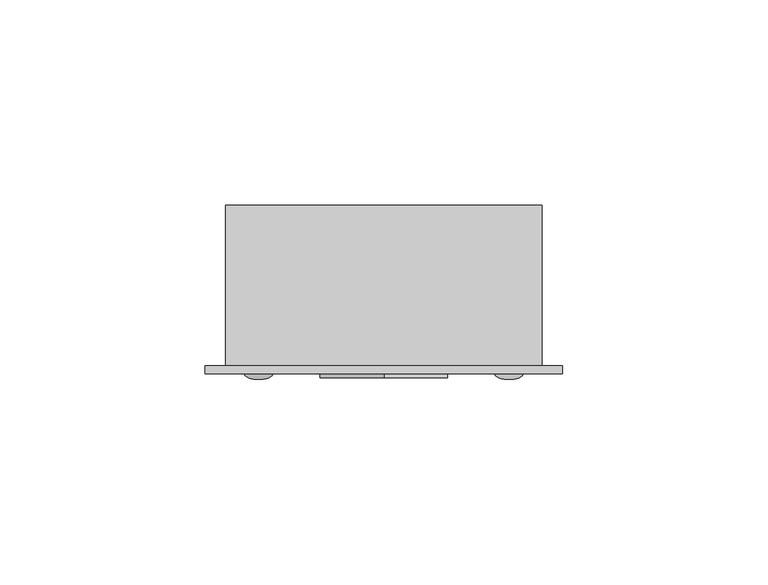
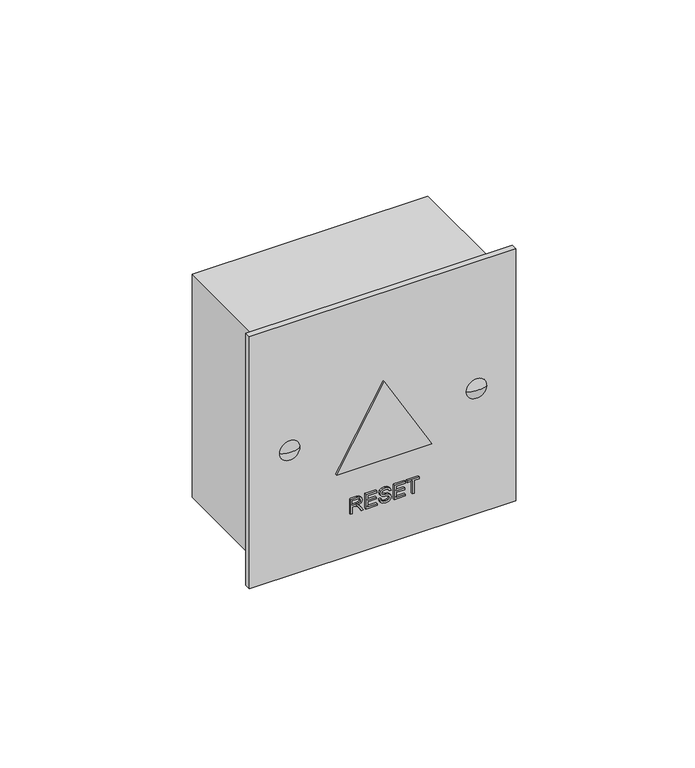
"""IFC4 building model written with IfcOpenShell, lengths in millimetres: proxy geometry, TSL_UK - TSLSZPC - Single Zone Assistance Alarm Kit : TSL.SZPC.CS - Satin - Reset Button."""

from ifc_helpers import new_model, si_unit, point, frame, origin, place, context, project, spatial, polyline, circle_curve, ellipse_curve, trimmed, outline, extrude, source, transform, mapped, element, save
from ifc_brep_helpers import plane_surface, revolved_surface, advanced_brep


def communication_devices_be0d23eb(model_context):
    return source(origin(), model_context, "Body", "SolidModel", [
        advanced_brep(
        [(43.5, -2.0, 43.5), (-43.5, -2.0, 43.5), (-43.5, -2.0, -43.5), (43.5, -2.0, -43.5), (4.0, -2.0, 0.0), (-4.0, -2.0, 0.0), (43.5, 0.0, 43.5), (43.5, 0.0, -43.5), (-43.5, 0.0, -43.5), (-43.5, 0.0, 43.5), (-1.5, 0.0, 0.0), (1.5, 0.0, 0.0), (-1.5, -1.139181, 0.0), (1.5, -1.139181, 0.0)],
        [
            (0, 1),
            (1, 2),
            (2, 3),
            (3, 0),
            (4, 5, circle_curve(frame((0.0, -2.0, 0.0), z_axis=(0.0, 1.0, 0.0), x_axis=(1.0, 0.0, 0.0)), 4.0)),
            (5, 4, circle_curve(frame((0.0, -2.0, 0.0), z_axis=(0.0, 1.0, 0.0), x_axis=(1.0, 0.0, 0.0)), 4.0)),
            (6, 7),
            (7, 8),
            (8, 9),
            (9, 6),
            (10, 11, circle_curve(frame((0.0, 0.0, 0.0), z_axis=(0.0, -1.0, 0.0), x_axis=(1.0, 0.0, 0.0)), 1.5)),
            (11, 10, circle_curve(frame((0.0, 0.0, 0.0), z_axis=(0.0, -1.0, 0.0), x_axis=(1.0, 0.0, 0.0)), 1.5)),
            (0, 6),
            (9, 1),
            (8, 2),
            (7, 3),
            (10, 12),
            (12, 13, circle_curve(frame((0.0, -1.139181, 0.0), z_axis=(0.0, -1.0, 0.0), x_axis=(1.0, 0.0, 0.0)), 1.5)),
            (13, 11),
            (13, 12, circle_curve(frame((0.0, -1.139181, 0.0), z_axis=(0.0, -1.0, 0.0), x_axis=(1.0, 0.0, 0.0)), 1.5)),
            (12, 5),
            (4, 13),
        ],
        [
            plane_surface(frame((-43.5, -2.0, 43.5), z_axis=(0.0, -1.0, 0.0), x_axis=(-1.0, 0.0, 0.0))),
            plane_surface(frame((-43.5, 0.0, 43.5), z_axis=(0.0, 1.0, 0.0), x_axis=(1.0, 0.0, 0.0))),
            plane_surface(frame((43.5, -2.0, 43.5), z_axis=(0.0, 0.0, 1.0), x_axis=(0.0, 1.0, 0.0))),
            plane_surface(frame((-43.5, -2.0, 43.5), z_axis=(-1.0, 0.0, 0.0), x_axis=(0.0, 1.0, 0.0))),
            plane_surface(frame((-43.5, -2.0, -43.5), z_axis=(0.0, 0.0, -1.0), x_axis=(0.0, 1.0, 0.0))),
            plane_surface(frame((43.5, -2.0, -43.5), z_axis=(1.0, 0.0, 0.0), x_axis=(0.0, 1.0, 0.0))),
            revolved_surface(polyline([(1.5, 0.0, 0.0), (1.5, -1.1391809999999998, 0.0)]), (0.0, 5.0, 0.0), (0.0, 1.0, 0.0)),
            revolved_surface(polyline([(1.5, -1.139181, 0.0), (4.0, -2.0, 0.0)]), (0.0, 5.0, 0.0), (0.0, 1.0, 0.0)),
        ],
        [
            (0, [[1, 2, 3, 4], [5, 6]]),
            (1, [[7, 8, 9, 10], [11, 12]]),
            (2, [[-1, 13, -10, 14]]),
            (3, [[-2, -14, -9, 15]]),
            (4, [[-3, -15, -8, 16]]),
            (5, [[-4, -16, -7, -13]]),
            (6, [[17, 18, 19, -11]]),
            (6, [[-17, -12, -19, 20]]),
            (7, [[-18, 21, -5, 22]]),
            (7, [[-20, -22, -6, -21]]),
        ],
    ),
        extrude(outline(polyline([(-28.4624998, 9.1430939), (-28.4624998, 9.7709458), (-24.0675362, 9.7709458), (-24.0675362, 11.4190571), (-23.4396842, 11.4190571), (-23.4396842, 7.4949825), (-24.0675362, 7.4949825), (-24.0675362, 9.1430939), (-28.4624998, 9.1430939)])), frame((0.0, -3.0, 0.0), z_axis=(0.0, 1.0, 0.0), x_axis=(0.0, 0.0, 1.0)), (0.0, 0.0, 1.0), 1.0),
        extrude(outline(polyline([(-28.4624998, 3.2569819), (-28.4624998, 6.9456121), (-27.8346478, 6.9456121), (-27.8346478, 3.8848339), (-26.1865365, 3.8848339), (-26.1865365, 6.7101676), (-25.5586845, 6.7101676), (-25.5586845, 3.8848339), (-24.0675362, 3.8848339), (-24.0675362, 6.8671306), (-23.4396842, 6.8671306), (-23.4396842, 3.2569819), (-28.4624998, 3.2569819)])), frame((0.0, -3.0, 0.0), z_axis=(0.0, 1.0, 0.0), x_axis=(0.0, 0.0, 1.0)), (0.0, 0.0, 1.0), 1.0),
        extrude(outline(polyline([(-26.7359069, -1.6088706), (-27.6948527, -1.3378642), (-28.3300622, -0.6284651), (-28.5409812, 0.4929619), (-28.3453906, 1.4427106), (-27.7972465, 2.0901829), (-27.0461541, 2.315204), (-26.3361418, 2.1196134), (-25.8272384, 1.511995), (-25.5120861, 0.4009914), (-25.161372, -0.6241731), (-24.726045, -0.8240557), (-24.2048788, -0.5420128), (-23.9890547, 0.3568455), (-24.2073313, 1.2532513), (-24.8523511, 1.6088706), (-24.8523511, 2.2367225), (-24.0663099, 1.987789), (-23.5402387, 1.3256015), (-23.3612028, 0.3323201), (-23.5322679, -0.5984214), (-24.0338137, -1.2342441), (-24.7444391, -1.4519076), (-25.3686122, -1.2759374), (-25.8358223, -0.7418954), (-26.1454563, 0.242189), (-26.3851928, 1.1563757), (-26.6703013, 1.5831189), (-27.0620956, 1.6873521), (-27.4833205, 1.5481701), (-27.7984727, 1.1244926), (-27.9131293, 0.4684364), (-27.7616845, -0.2844954), (-27.364372, -0.7786836), (-26.7359069, -0.9810187), (-26.7359069, -1.6088706)])), frame((0.0, -3.0, 0.0), z_axis=(0.0, 1.0, 0.0), x_axis=(0.0, 0.0, 1.0)), (0.0, 0.0, 1.0), 1.0),
        extrude(outline(polyline([(-28.4624998, -6.0038342), (-28.4624998, -2.315204), (-27.8346478, -2.315204), (-27.8346478, -5.3759822), (-26.1865365, -5.3759822), (-26.1865365, -2.5506485), (-25.5586845, -2.5506485), (-25.5586845, -5.3759822), (-24.0675362, -5.3759822), (-24.0675362, -2.3936855), (-23.4396842, -2.3936855), (-23.4396842, -6.0038342), (-28.4624998, -6.0038342)])), frame((0.0, -3.0, 0.0), z_axis=(0.0, 1.0, 0.0), x_axis=(0.0, 0.0, 1.0)), (0.0, 0.0, 1.0), 1.0),
        extrude(outline(polyline([(-28.4624998, -11.0266497), (-28.4624998, -10.3987977), (-26.265018, -10.3987977), (-26.265018, -9.6409608), (-26.2870909, -9.2767576), (-26.4066525, -8.9781601), (-26.7322281, -8.6464532), (-27.4213937, -8.1743379), (-28.4624998, -7.5207343), (-28.4624998, -6.7911016), (-27.1013364, -7.6286463), (-26.4550903, -8.1375497), (-26.1865365, -8.4943953), (-25.7193263, -7.4428659), (-24.8143366, -7.1025751), (-24.0546603, -7.3079758), (-23.5751874, -7.8573463), (-23.4396842, -8.8622773), (-23.4396842, -11.0266497), (-28.4624998, -11.0266497)]), holes=[polyline([(-25.637166, -10.3987977), (-24.0675362, -10.3987977), (-24.0675362, -8.8352993), (-24.2845866, -7.9959152), (-24.8376358, -7.730427), (-25.2637658, -7.869609), (-25.5482612, -8.2767318), (-25.637166, -8.9934885), (-25.637166, -10.3987977)])]), frame((0.0, -3.0, 0.0), z_axis=(0.0, 1.0, 0.0), x_axis=(0.0, 0.0, 1.0)), (0.0, 0.0, 1.0), 1.0),
        extrude(outline(polyline([(13.4249995, 0.0), (-13.4249995, -15.5), (-13.4249995, 15.5), (13.4249995, 0.0)])), frame((0.0, -3.0, 0.0), z_axis=(0.0, 1.0, 0.0), x_axis=(0.0, 0.0, 1.0)), (0.0, 0.0, 1.0), 1.0),
        advanced_brep(
        [(34.0, -2.0, 0.0), (27.0, -2.0, 0.0), (30.5, -2.0, 0.0), (30.5, -3.3586121, 0.0)],
        [
            (0, 1, circle_curve(frame((30.5, -2.0, 0.0), z_axis=(0.0, 1.0, 0.0), x_axis=(-1.0, 0.0, 0.0)), 3.5)),
            (1, 2),
            (2, 0),
            (1, 0, circle_curve(frame((30.5, -2.0, 0.0), z_axis=(0.0, 1.0, 0.0), x_axis=(-1.0, 0.0, 0.0)), 3.5)),
            (3, 1, ellipse_curve(frame((30.5, -2.0, 0.0), z_axis=(0.0, 0.0, -1.0), x_axis=(1.0, 0.0, 0.0)), 3.5, 1.3586121)),
            (0, 3, ellipse_curve(frame((30.5, -2.0, 0.0), z_axis=(0.0, 0.0, -1.0), x_axis=(-1.0, 0.0, 0.0)), 3.5, 1.3586121)),
        ],
        [
            plane_surface(frame((30.5, -2.0, 0.0), z_axis=(0.0, 1.0, 0.0), x_axis=(-1.0, 0.0, 0.0))),
            revolved_surface(trimmed(ellipse_curve(frame((30.5, -2.0, 0.0), z_axis=(0.0, 0.0, 1.0), x_axis=(1.0, 0.0, 0.0)), 3.5, 1.3586121), [point((27.0, -2.0, 0.0))], [point((30.5, -3.3586121, 0.0))], True, "CARTESIAN"), (30.5, 13.8518062, 0.0), (0.0, -1.0, 0.0)),
        ],
        [
            (0, [[1, 2, 3]]),
            (0, [[4, -3, -2]]),
            (1, [[5, -1, 6]]),
            (1, [[-6, -4, -5]]),
        ],
    ),
        advanced_brep(
        [(-30.5, -2.0, 0.0), (-27.0, -2.0, 0.0), (-34.0, -2.0, 0.0), (-30.5, -3.3586121, 0.0)],
        [
            (0, 1),
            (1, 2, circle_curve(frame((-30.5, -2.0, 0.0), z_axis=(0.0, 1.0, 0.0), x_axis=(1.0, 0.0, 0.0)), 3.5)),
            (2, 0),
            (2, 1, circle_curve(frame((-30.5, -2.0, 0.0), z_axis=(0.0, 1.0, 0.0), x_axis=(1.0, 0.0, 0.0)), 3.5)),
            (1, 3, ellipse_curve(frame((-30.5, -2.0, 0.0), z_axis=(0.0, 0.0, -1.0), x_axis=(-1.0, 0.0, 0.0)), 3.5, 1.3586121)),
            (3, 2, ellipse_curve(frame((-30.5, -2.0, 0.0), z_axis=(0.0, 0.0, -1.0), x_axis=(1.0, 0.0, 0.0)), 3.5, 1.3586121)),
        ],
        [
            plane_surface(frame((-30.5, -2.0, 0.0), z_axis=(0.0, 1.0, 0.0), x_axis=(1.0, 0.0, 0.0))),
            revolved_surface(trimmed(ellipse_curve(frame((-30.5, -2.0, 0.0), z_axis=(0.0, 0.0, 1.0), x_axis=(-1.0, 0.0, 0.0)), 3.5, 1.3586121), [point((-30.5, -3.3586121, 0.0))], [point((-27.0, -2.0, 0.0))], True, "CARTESIAN"), (-30.5, 13.8518062, 0.0), (0.0, 1.0, 0.0)),
        ],
        [
            (0, [[1, 2, 3]]),
            (0, [[-3, 4, -1]]),
            (1, [[-2, 5, 6]]),
            (1, [[-4, -6, -5]]),
        ],
    ),
        extrude(outline(polyline([(38.5, 0.0), (-38.5, 0.0), (-38.5, 39.0), (38.5, 39.0), (38.5, 0.0)])), frame((0.0, 0.0, -38.5), z_axis=(0.0, 0.0, 1.0), x_axis=(1.0, 0.0, 0.0)), (0.0, 0.0, 1.0), 77.0),
    ])


if __name__ == "__main__":
    model = new_model("IFC4")
    model_context = context("Model", 3, world=origin())
    ifc_project = project(units=[si_unit("LENGTHUNIT", "METRE", prefix="MILLI")], contexts=[model_context])
    site = spatial("IfcSite", under=ifc_project)
    building = spatial("IfcBuilding", under=site)
    placement = place(None, origin())
    communication_devices_shape = communication_devices_be0d23eb(model_context)
    element("IfcBuildingElementProxy", 1, Name="TSL_UK - TSLSZPC - Single Zone Assistance Alarm Kit : TSL.SZPC.CS - Satin - Reset Button", ObjectType="TSL_UK - TSLSZPC - Single Zone Assistance Alarm Kit : TSL.SZPC.CS - Satin - Reset Button", at=placement, inside=building, context=model_context, shape_type="MappedRepresentation", body=[
        mapped(communication_devices_shape, transform((0.0, 0.0, 0.0), x_axis=(1.0, 0.0, 0.0), y_axis=(0.0, 1.0, 0.0), z_axis=(0.0, 0.0, 1.0))),
    ])
    save(model, "model.ifc")
